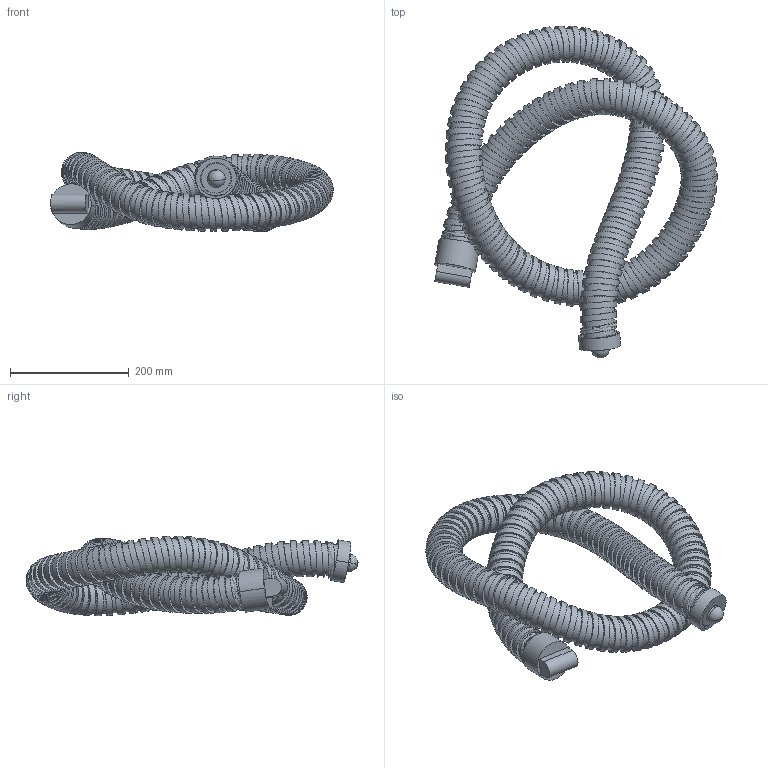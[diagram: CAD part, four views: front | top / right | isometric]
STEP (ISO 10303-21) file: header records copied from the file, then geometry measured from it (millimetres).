
FILE_DESCRIPTION(/* description */ (''),/* implementation_level */ '2;1');
FILE_NAME(/* name */ 'Boalum_semplificato_nx.stp',/* time_stamp */ '2026-08-28T15:53:56+02:00',/* author */ (''),/* organization */ (''),/* preprocessor_version */ 'ST-DEVELOPER v19.3',/* originating_system */ 'SIEMENS PLM Software NX2212.5000',/* authorisation */ '');
FILE_SCHEMA (('AUTOMOTIVE_DESIGN { 1 0 10303 214 3 1 1 1 }'));
Products named in the file (1): Boalum_interno_stp_objects
Bounding box: 476.7 x 560.03 x 134.26 mm (x, y, z)
Volume: 26362707.8 mm3; surface area: 1060407.7 mm2
Topology: 28 solids, 29 shells, 86 faces, 281 edges, 203 vertices
Faces by surface type: sphere 52, plane 14, cylinder 11, bspline 9
Entity records: 40343 total; most frequent: CARTESIAN_POINT 38937, ORIENTED_EDGE 244, DIRECTION 162, EDGE_CURVE 126, VERTEX_POINT 101, EDGE_LOOP 93, ADVANCED_FACE 86, AXIS2_PLACEMENT_3D 80
